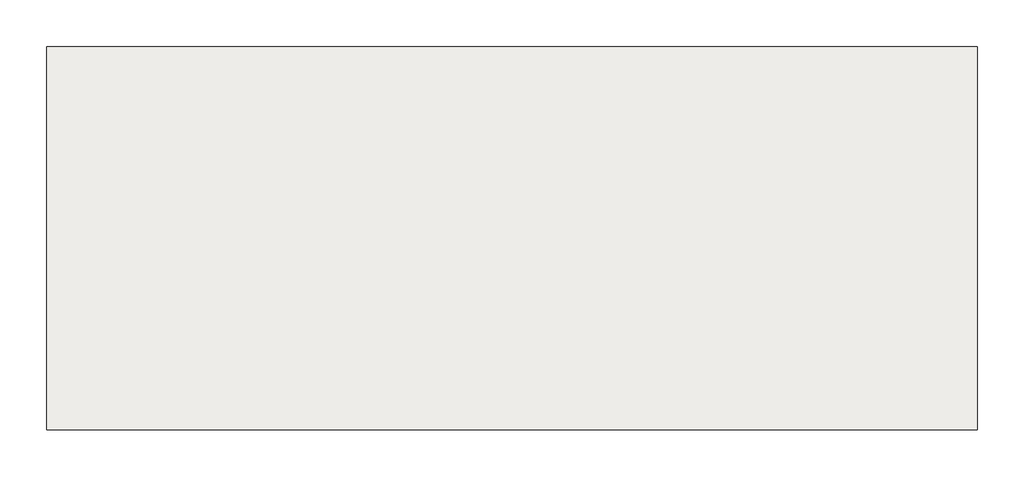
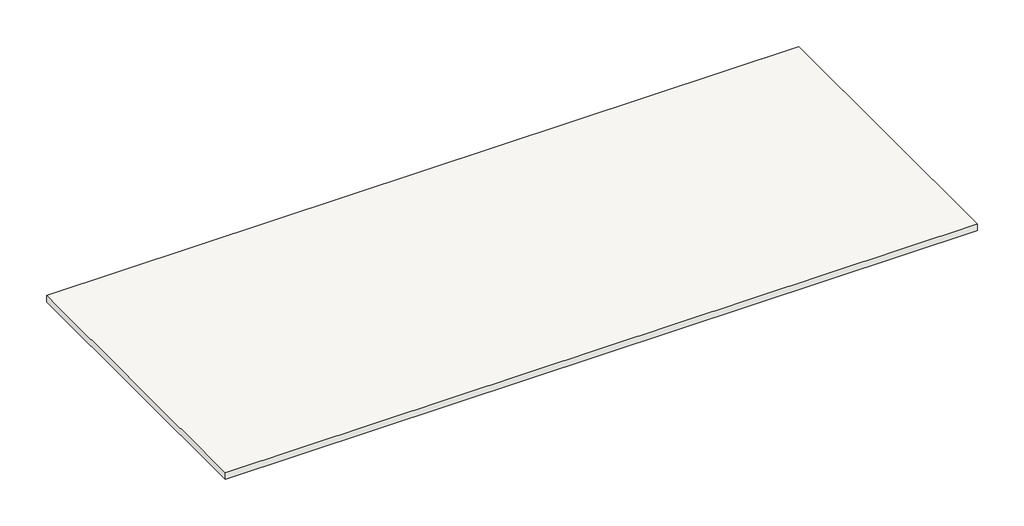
# One storey: 1 slab.
"""IFC4 building model written with IfcOpenShell, lengths in millimetres."""

from ifc_helpers import new_model, si_unit, frame, origin, place, context, project, spatial, polyline, outline, extrude, element, save

model = new_model("IFC4")

# Units and contexts
model_context = context("Model", 3, world=origin())
ifc_project = project(units=[si_unit("LENGTHUNIT", "METRE", prefix="MILLI")], contexts=[model_context])

# Site, building, storey
site = spatial("IfcSite", under=ifc_project)
building = spatial("IfcBuilding", under=site)
storey = spatial("IfcBuildingStorey", under=building, Name="Уровень 3", Elevation=5400.0)

# Slab
placement = place(None, origin())
element("IfcSlab", 1, ObjectType="Типовой 150мм", at=placement, inside=storey, context=model_context, shape_type="SweptSolid", body=[
    extrude(outline(polyline([(-175.0, 6525.0), (16285.0, 6525.0), (16285.0, -255.0), (-175.0, -255.0), (-175.0, 6525.0)])), frame((0.0, 0.0, 5250.0), z_axis=(0.0, 0.0, 1.0), x_axis=(1.0, 0.0, 0.0)), (0.0, 0.0, 1.0), 150.0),
])

save(model, "model.ifc")
